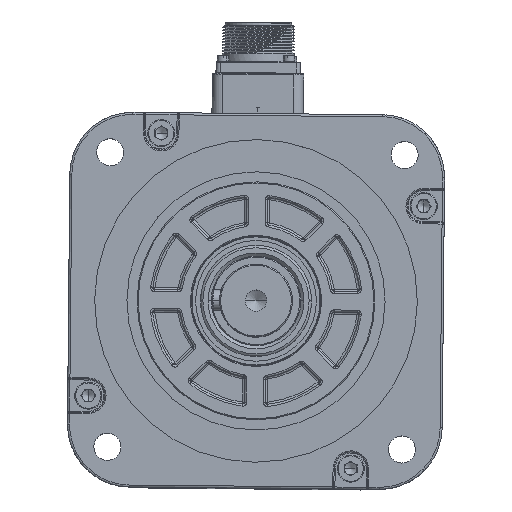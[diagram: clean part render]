
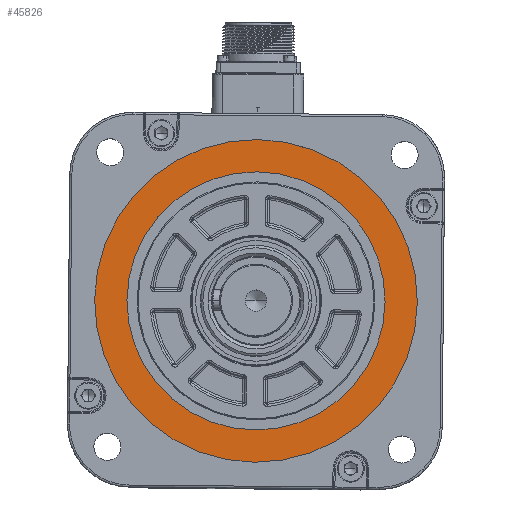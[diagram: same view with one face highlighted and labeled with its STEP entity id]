
A CAD part, top view. The second image highlights one B-rep face of the part: STEP entity #45826.
In plain terms, the highlighted planar face has unit normal (0, 0, 1) as drawn and (0, 0, -1) by its records, which use the part's own axes.
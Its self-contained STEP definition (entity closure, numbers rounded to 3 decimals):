
#3396 = AXIS2_PLACEMENT_3D ( 'NONE', #97257, #3622, #15424 ) ;
#3622 = DIRECTION ( 'NONE',  ( 0., 0., 1. ) ) ;
#6997 = AXIS2_PLACEMENT_3D ( 'NONE', #131425, #71754, #37844 ) ;
#7322 = AXIS2_PLACEMENT_3D ( 'NONE', #107181, #143303, #130838 ) ;
#7639 = CIRCLE ( 'NONE', #7322, 77.5 ) ;
#11382 = CARTESIAN_POINT ( 'NONE',  ( 77.5, 0., 1.5 ) ) ;
#13560 = VERTEX_POINT ( 'NONE', #57783 ) ;
#13887 = DIRECTION ( 'NONE',  ( 0., 0., -1. ) ) ;
#15424 = DIRECTION ( 'NONE',  ( -1., 0., 0. ) ) ;
#22061 = ORIENTED_EDGE ( 'NONE', *, *, #75565, .T. ) ;
#26948 = CIRCLE ( 'NONE', #63877, 62. ) ;
#31459 = EDGE_CURVE ( 'NONE', #64373, #37101, #26948, .T. ) ;
#34677 = DIRECTION ( 'NONE',  ( -1., 0., 0. ) ) ;
#37101 = VERTEX_POINT ( 'NONE', #71434 ) ;
#37844 = DIRECTION ( 'NONE',  ( -1., 0., 0. ) ) ;
#41266 = EDGE_CURVE ( 'NONE', #37101, #64373, #148609, .T. ) ;
#41933 = ORIENTED_EDGE ( 'NONE', *, *, #41266, .T. ) ;
#44569 = EDGE_CURVE ( 'NONE', #13560, #122045, #52810, .T. ) ;
#45826 = ADVANCED_FACE ( 'NONE', ( #89404, #69137 ), #108573, .T. ) ;
#52692 = EDGE_LOOP ( 'NONE', ( #149127, #41933 ) ) ;
#52810 = CIRCLE ( 'NONE', #6997, 77.5 ) ;
#57783 = CARTESIAN_POINT ( 'NONE',  ( -77.5, 0., 1.5 ) ) ;
#63877 = AXIS2_PLACEMENT_3D ( 'NONE', #139230, #81971, #34677 ) ;
#64373 = VERTEX_POINT ( 'NONE', #148662 ) ;
#69137 = FACE_BOUND ( 'NONE', #52692, .T. ) ;
#71434 = CARTESIAN_POINT ( 'NONE',  ( 62., 0., 1.5 ) ) ;
#71754 = DIRECTION ( 'NONE',  ( 0., 0., -1. ) ) ;
#73604 = ORIENTED_EDGE ( 'NONE', *, *, #44569, .T. ) ;
#75565 = EDGE_CURVE ( 'NONE', #122045, #13560, #7639, .T. ) ;
#81971 = DIRECTION ( 'NONE',  ( 0., 0., 1. ) ) ;
#89404 = FACE_OUTER_BOUND ( 'NONE', #95256, .T. ) ;
#95256 = EDGE_LOOP ( 'NONE', ( #73604, #22061 ) ) ;
#97257 = CARTESIAN_POINT ( 'NONE',  ( 0., 0., 1.5 ) ) ;
#107181 = CARTESIAN_POINT ( 'NONE',  ( 0., 0., 1.5 ) ) ;
#108573 = PLANE ( 'NONE',  #144419 ) ;
#119874 = CARTESIAN_POINT ( 'NONE',  ( 0., 0., 1.5 ) ) ;
#122045 = VERTEX_POINT ( 'NONE', #11382 ) ;
#130838 = DIRECTION ( 'NONE',  ( -1., 0., 0. ) ) ;
#131425 = CARTESIAN_POINT ( 'NONE',  ( 0., 0., 1.5 ) ) ;
#139230 = CARTESIAN_POINT ( 'NONE',  ( 0., 0., 1.5 ) ) ;
#143303 = DIRECTION ( 'NONE',  ( 0., 0., -1. ) ) ;
#144419 = AXIS2_PLACEMENT_3D ( 'NONE', #119874, #13887, #144722 ) ;
#144722 = DIRECTION ( 'NONE',  ( -1., 0., 0. ) ) ;
#148609 = CIRCLE ( 'NONE', #3396, 62. ) ;
#148662 = CARTESIAN_POINT ( 'NONE',  ( -62., 0., 1.5 ) ) ;
#149127 = ORIENTED_EDGE ( 'NONE', *, *, #31459, .T. ) ;
